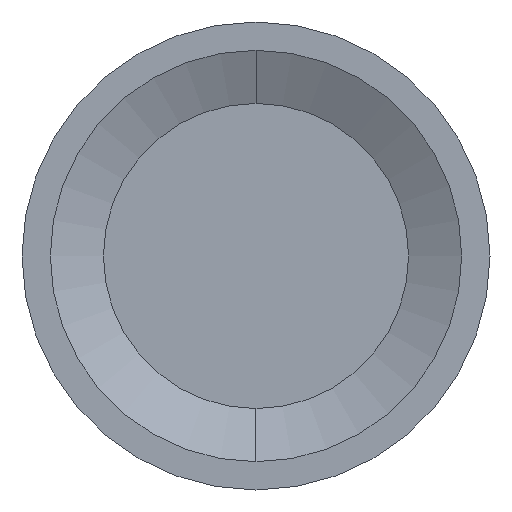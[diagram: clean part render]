
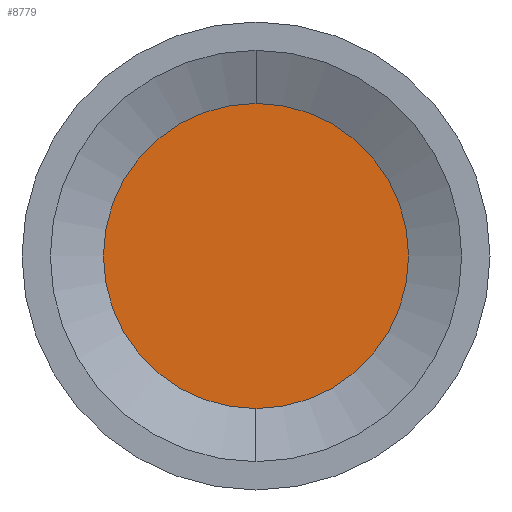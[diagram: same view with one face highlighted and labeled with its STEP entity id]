
A CAD part, left-side view. The second image highlights one B-rep face of the part: STEP entity #8779.
In plain terms, the highlighted planar face has unit normal (-1, 0, 0).
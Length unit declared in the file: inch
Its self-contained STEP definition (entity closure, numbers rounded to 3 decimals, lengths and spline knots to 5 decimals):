
#38 = CIRCLE ( 'NONE', #12683, 0.089 ) ;
#2491 = ORIENTED_EDGE ( 'NONE', *, *, #10053, .T. ) ;
#4028 = CARTESIAN_POINT ( 'NONE',  ( -0.124, 0., 0. ) ) ;
#5710 = EDGE_CURVE ( 'NONE', #17574, #18148, #38, .T. ) ;
#6097 = CARTESIAN_POINT ( 'NONE',  ( -0.124, 0., 0.089 ) ) ;
#6572 = PLANE ( 'NONE',  #11278 ) ;
#7391 = EDGE_LOOP ( 'NONE', ( #2491, #14337 ) ) ;
#8089 = CARTESIAN_POINT ( 'NONE',  ( -0.124, 0., 0. ) ) ;
#8779 = ADVANCED_FACE ( 'NONE', ( #16923 ), #6572, .F. ) ;
#10053 = EDGE_CURVE ( 'NONE', #18148, #17574, #17388, .T. ) ;
#10928 = DIRECTION ( 'NONE',  ( 0., 0., 1. ) ) ;
#11278 = AXIS2_PLACEMENT_3D ( 'NONE', #13835, #17244, #20552 ) ;
#12683 = AXIS2_PLACEMENT_3D ( 'NONE', #8089, #21968, #16652 ) ;
#13835 = CARTESIAN_POINT ( 'NONE',  ( -0.124, 0.089, 0. ) ) ;
#14337 = ORIENTED_EDGE ( 'NONE', *, *, #5710, .T. ) ;
#16652 = DIRECTION ( 'NONE',  ( 0., 0., 1. ) ) ;
#16923 = FACE_OUTER_BOUND ( 'NONE', #7391, .T. ) ;
#17244 = DIRECTION ( 'NONE',  ( 1., 0., 0. ) ) ;
#17388 = CIRCLE ( 'NONE', #20639, 0.089 ) ;
#17574 = VERTEX_POINT ( 'NONE', #21533 ) ;
#17874 = DIRECTION ( 'NONE',  ( -1., 0., 0. ) ) ;
#18148 = VERTEX_POINT ( 'NONE', #6097 ) ;
#20552 = DIRECTION ( 'NONE',  ( 0., 0., -1. ) ) ;
#20639 = AXIS2_PLACEMENT_3D ( 'NONE', #4028, #17874, #10928 ) ;
#21533 = CARTESIAN_POINT ( 'NONE',  ( -0.124, 0., -0.089 ) ) ;
#21968 = DIRECTION ( 'NONE',  ( -1., 0., 0. ) ) ;
